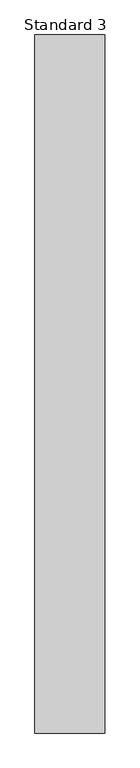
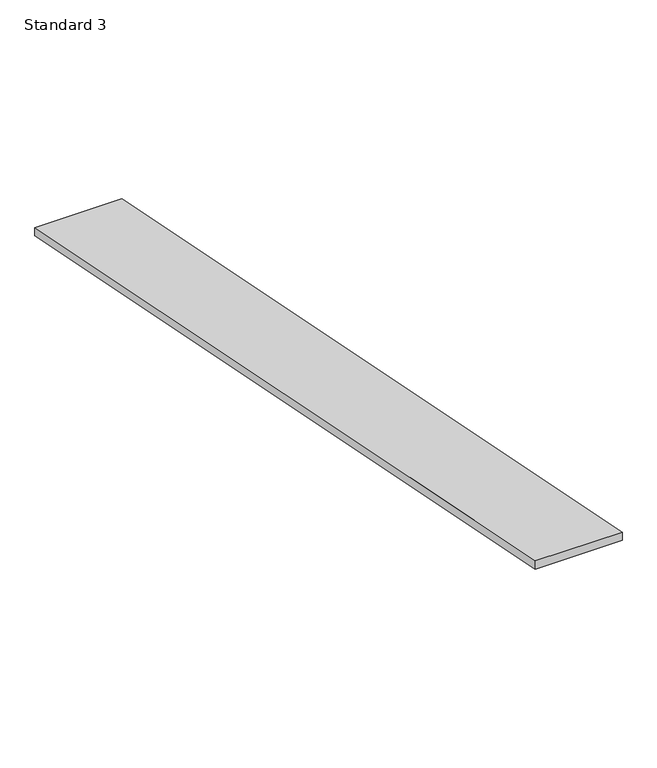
"""IFC4 building model written with IfcOpenShell, lengths in millimetres: ramp geometry, Standard 3."""

from ifc_helpers import new_model, si_unit, frame, origin, place, context, project, spatial, polyline, outline, extrude, source, transform, mapped, element, save


def standard_3_bc49fa27(model_context):
    return source(origin(), model_context, "Body", "SweptSolid", [
        extrude(outline(polyline([(11290.0288254, 6300.0), (26292.1681881, 3300.0), (26292.1681881, 3147.0302535), (11290.0288254, 6147.0302535), (11290.0288254, 6300.0)])), frame((-11781.9484639, 0.0, 0.0), z_axis=(1.0, 0.0, 0.0), x_axis=(0.0, 1.0, 0.0)), (0.0, 0.0, 1.0), 1500.0),
    ])


if __name__ == "__main__":
    model = new_model("IFC4")
    model_context = context("Model", 3, world=origin())
    ifc_project = project(units=[si_unit("LENGTHUNIT", "METRE", prefix="MILLI")], contexts=[model_context])
    site = spatial("IfcSite", under=ifc_project)
    building = spatial("IfcBuilding", under=site)
    placement = place(None, origin())
    standard_3_shape = standard_3_bc49fa27(model_context)
    element("IfcRamp", 1, ObjectType="Standard 3", at=placement, inside=building, context=model_context, shape_type="MappedRepresentation", body=[
        mapped(standard_3_shape, transform((0.0, 0.0, 0.0), x_axis=(1.0, 0.0, 0.0), y_axis=(0.0, 1.0, 0.0), z_axis=(0.0, 0.0, 1.0))),
    ])
    save(model, "model.ifc")
